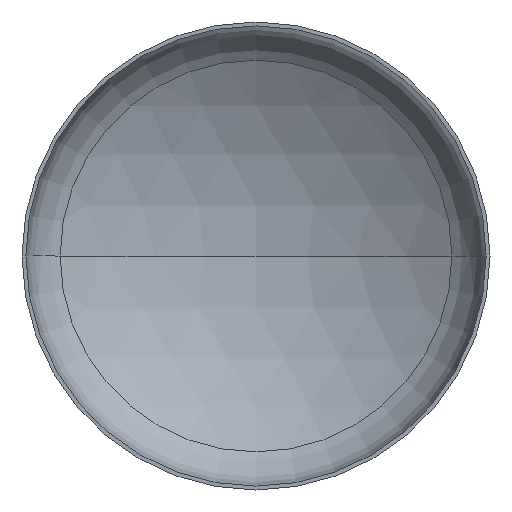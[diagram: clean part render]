
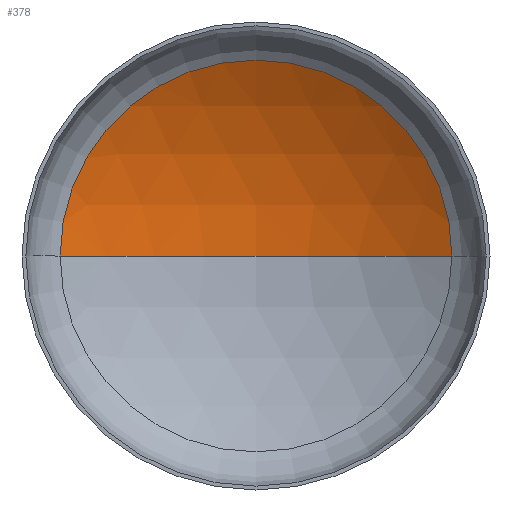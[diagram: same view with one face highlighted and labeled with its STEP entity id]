
A CAD part, front view. The second image highlights one B-rep face of the part: STEP entity #378.
In plain terms, the highlighted spherical face has radius 3200 mm.
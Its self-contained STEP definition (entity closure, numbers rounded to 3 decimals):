
#2 = DIRECTION ( 'NONE',  ( -1., 0., 0. ) ) ;
#5 = DIRECTION ( 'NONE',  ( 1., 0., 0. ) ) ;
#10 = DIRECTION ( 'NONE',  ( 0., 0., 1. ) ) ;
#11 = CARTESIAN_POINT ( 'NONE',  ( 0., -2103.252, 0. ) ) ;
#15 = CIRCLE ( 'NONE', #34, 3200. ) ;
#19 = CARTESIAN_POINT ( 'NONE',  ( 0., 1096.748, 0. ) ) ;
#34 = AXIS2_PLACEMENT_3D ( 'NONE', #11, #10, #5 ) ;
#35 = AXIS2_PLACEMENT_3D ( 'NONE', #328, #158, #2 ) ;
#37 = AXIS2_PLACEMENT_3D ( 'NONE', #165, #139, #140 ) ;
#75 = EDGE_CURVE ( 'NONE', #263, #256, #283, .T. ) ;
#77 = CARTESIAN_POINT ( 'NONE',  ( 1673.656, 624.178, 0. ) ) ;
#78 = EDGE_CURVE ( 'NONE', #202, #263, #211, .T. ) ;
#80 = EDGE_CURVE ( 'NONE', #202, #256, #15, .T. ) ;
#98 = CARTESIAN_POINT ( 'NONE',  ( 0., -2103.252, 0. ) ) ;
#103 = DIRECTION ( 'NONE',  ( 0., 0., -1. ) ) ;
#118 = CARTESIAN_POINT ( 'NONE',  ( -1673.656, 624.178, 0. ) ) ;
#134 = DIRECTION ( 'NONE',  ( -1., 0., 0. ) ) ;
#139 = DIRECTION ( 'NONE',  ( 0., -1., 0. ) ) ;
#140 = DIRECTION ( 'NONE',  ( 1., 0., 0. ) ) ;
#141 = SPHERICAL_SURFACE ( 'NONE', #307, 3200. ) ;
#158 = DIRECTION ( 'NONE',  ( 0., 0., -1. ) ) ;
#165 = CARTESIAN_POINT ( 'NONE',  ( 0., 624.178, 0. ) ) ;
#202 = VERTEX_POINT ( 'NONE', #19 ) ;
#211 = CIRCLE ( 'NONE', #35, 3200. ) ;
#256 = VERTEX_POINT ( 'NONE', #118 ) ;
#263 = VERTEX_POINT ( 'NONE', #77 ) ;
#275 = ORIENTED_EDGE ( 'NONE', *, *, #75, .T. ) ;
#283 = CIRCLE ( 'NONE', #37, 1673.656 ) ;
#286 = ORIENTED_EDGE ( 'NONE', *, *, #80, .F. ) ;
#295 = FACE_OUTER_BOUND ( 'NONE', #316, .T. ) ;
#307 = AXIS2_PLACEMENT_3D ( 'NONE', #98, #103, #134 ) ;
#316 = EDGE_LOOP ( 'NONE', ( #286, #321, #275 ) ) ;
#321 = ORIENTED_EDGE ( 'NONE', *, *, #78, .T. ) ;
#328 = CARTESIAN_POINT ( 'NONE',  ( 0., -2103.252, 0. ) ) ;
#378 = ADVANCED_FACE ( 'NONE', ( #295 ), #141, .F. ) ;
